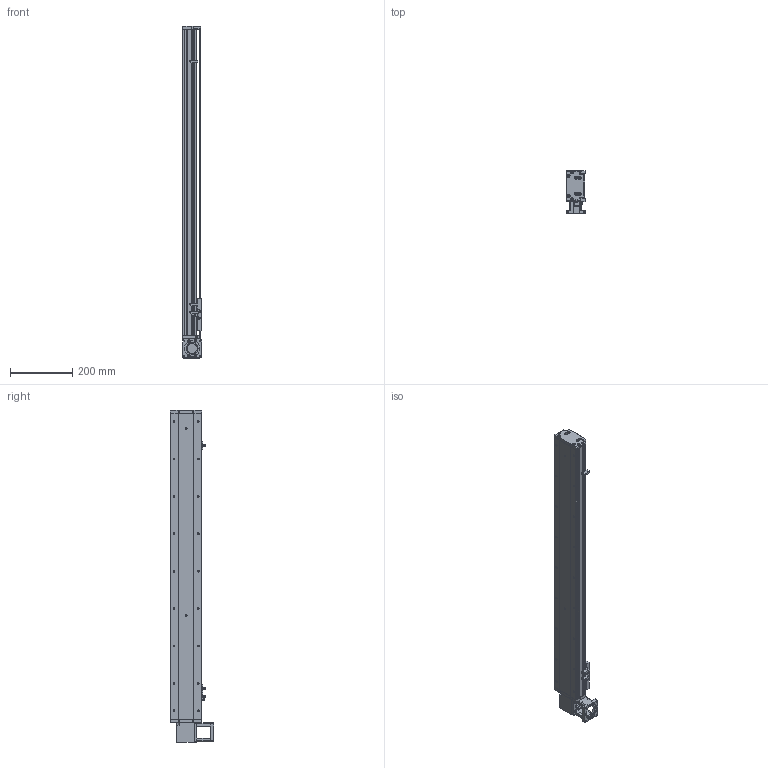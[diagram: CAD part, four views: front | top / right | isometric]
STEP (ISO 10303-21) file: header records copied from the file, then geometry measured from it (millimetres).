
FILE_DESCRIPTION (( 'STEP AP214' ), '1' );
FILE_NAME ('KSD100B-S800-MLT-CM.STEP', '2019-10-26T05:51:29', ( '微软用户' ), ( '微软中国' ), 'SwSTEP 2.0', 'SolidWorks 2014', '' );
FILE_SCHEMA (( 'AUTOMOTIVE_DESIGN' ));
Length unit declared in the file: millimetre
Products named in the file (11): KSD100B-S800-MLT-CM; 100宽安装板同步带带电机座400W,86; 100遵鎮湛假蚾啣1 ; 100宽防尘板800行程-同步带; U倰嫖萇EEㄜSX672; 覜茼え100遵圉猾敕; 100宽马达安装板同步带右; 100宽同步带安装板半封闭; 100宽马达安装板同步带; 100遵傷啣肮祭湍; 100宽底板半封闭同步带800行程
Assembly tree (12 placements, depth 2):
  KSD100B-S800-MLT-CM
    100宽底板半封闭同步带800行程
    100遵傷啣肮祭湍
    100宽马达安装板同步带
    100宽同步带安装板半封闭
    100宽马达安装板同步带右
    覜茼え100遵圉猾敕
    U倰嫖萇EEㄜSX672  x3
    100宽防尘板800行程-同步带
    100遵鎮湛假蚾啣1 
    100宽安装板同步带带电机座400W,86
Bounding box: 61 x 138 x 1065 mm (x, y, z)
Volume: 2052459.6 mm3; surface area: 759018 mm2
Topology: 12 solids, 12 shells, 1361 faces, 3828 edges, 2435 vertices
Faces by surface type: cylinder 687, plane 549, cone 125
Entity records: 47357 total; most frequent: CARTESIAN_POINT 9453, DIRECTION 6576, ORIENTED_EDGE 6308, EDGE_CURVE 3154, AXIS2_PLACEMENT_3D 2416, VERTEX_POINT 2059, LINE 1744, VECTOR 1744
